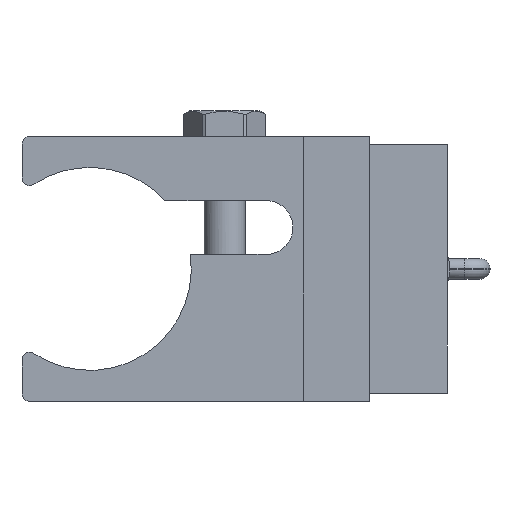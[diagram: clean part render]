
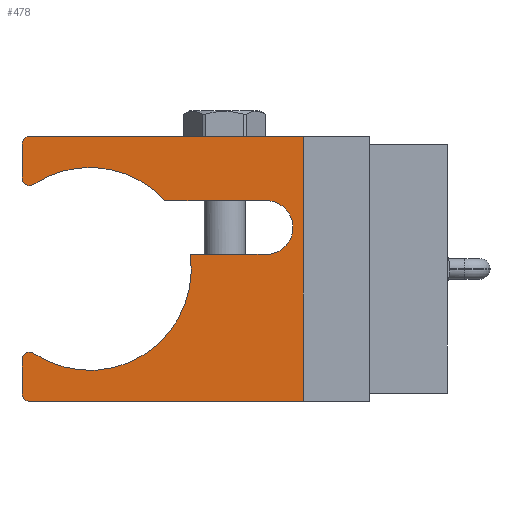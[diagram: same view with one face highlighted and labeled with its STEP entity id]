
A CAD part, left-side view. The second image highlights one B-rep face of the part: STEP entity #478.
In plain terms, the highlighted planar face has unit normal (-1, 0, 0).
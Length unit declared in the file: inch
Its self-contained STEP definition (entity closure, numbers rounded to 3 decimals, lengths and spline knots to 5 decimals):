
#180=CARTESIAN_POINT('',(-0.4,2.1,0.754));
#181=VERTEX_POINT('',#180);
#188=CARTESIAN_POINT('',(-0.4,2.054,0.8));
#189=VERTEX_POINT('',#188);
#190=CARTESIAN_POINT('',(-0.4,2.054,0.754));
#191=DIRECTION('',(1.0,0.,0.));
#192=DIRECTION('',(0.,0.707,0.707));
#193=AXIS2_PLACEMENT_3D('',#190,#191,#192);
#194=CIRCLE('',#193,0.046);
#195=EDGE_CURVE('',#181,#189,#194,.T.);
#220=CARTESIAN_POINT('',(-0.4,2.1,0.54935));
#221=VERTEX_POINT('',#220);
#228=CARTESIAN_POINT('',(-0.4,2.1,0.54935));
#229=DIRECTION('',(0.0,0.0,1.0));
#230=VECTOR('',#229,0.20465);
#231=LINE('',#228,#230);
#232=EDGE_CURVE('',#221,#181,#231,.T.);
#352=CARTESIAN_POINT('',(-0.4,2.054,-0.8));
#353=VERTEX_POINT('',#352);
#354=CARTESIAN_POINT('',(-0.4,2.1,-0.754));
#355=VERTEX_POINT('',#354);
#356=CARTESIAN_POINT('',(-0.4,2.054,-0.754));
#357=DIRECTION('',(1.0,0.0,0.0));
#358=DIRECTION('',(0.0,0.707,-0.707));
#359=AXIS2_PLACEMENT_3D('',#356,#357,#358);
#360=CIRCLE('',#359,0.046);
#361=EDGE_CURVE('',#353,#355,#360,.T.);
#379=CARTESIAN_POINT('',(-0.4,0.4,0.0));
#380=DIRECTION('',(-1.0,0.0,0.0));
#381=DIRECTION('',(0.0,0.0,1.0));
#382=AXIS2_PLACEMENT_3D('',#379,#380,#381);
#383=PLANE('',#382);
#384=ORIENTED_EDGE('',*,*,#195,.F.);
#385=ORIENTED_EDGE('',*,*,#232,.F.);
#386=CARTESIAN_POINT('',(-0.4,2.02859,0.511));
#387=VERTEX_POINT('',#386);
#388=CARTESIAN_POINT('',(-0.4,2.054,0.54935));
#389=DIRECTION('',(1.0,0.0,0.0));
#390=DIRECTION('',(0.0,0.473,-0.881));
#391=AXIS2_PLACEMENT_3D('',#388,#389,#390);
#392=CIRCLE('',#391,0.046);
#393=EDGE_CURVE('',#387,#221,#392,.T.);
#394=ORIENTED_EDGE('',*,*,#393,.F.);
#395=CARTESIAN_POINT('',(-0.4,1.23665,0.41261));
#396=VERTEX_POINT('',#395);
#397=CARTESIAN_POINT('',(-0.4,1.69,0.0));
#398=DIRECTION('',(1.0,0.0,0.0));
#399=DIRECTION('',(0.0,0.669,0.743));
#400=AXIS2_PLACEMENT_3D('',#397,#398,#399);
#401=CIRCLE('',#400,0.613);
#402=EDGE_CURVE('',#387,#396,#401,.T.);
#403=ORIENTED_EDGE('',*,*,#402,.T.);
#404=CARTESIAN_POINT('',(-0.4,0.62903,0.41261));
#405=VERTEX_POINT('',#404);
#406=CARTESIAN_POINT('',(-0.4,1.23665,0.41261));
#407=DIRECTION('',(0.0,-1.0,0.0));
#408=VECTOR('',#407,0.60762);
#409=LINE('',#406,#408);
#410=EDGE_CURVE('',#396,#405,#409,.T.);
#411=ORIENTED_EDGE('',*,*,#410,.T.);
#412=CARTESIAN_POINT('',(-0.4,0.625,0.08734));
#413=VERTEX_POINT('',#412);
#414=CARTESIAN_POINT('',(-0.4,0.625,0.25));
#415=DIRECTION('',(1.0,0.0,0.0));
#416=DIRECTION('',(0.0,0.025,1.));
#417=AXIS2_PLACEMENT_3D('',#414,#415,#416);
#418=CIRCLE('',#417,0.16266);
#419=EDGE_CURVE('',#405,#413,#418,.T.);
#420=ORIENTED_EDGE('',*,*,#419,.T.);
#421=CARTESIAN_POINT('',(-0.4,1.08325,0.08734));
#422=VERTEX_POINT('',#421);
#423=CARTESIAN_POINT('',(-0.4,0.625,0.08734));
#424=DIRECTION('',(0.0,1.0,0.0));
#425=VECTOR('',#424,0.45825);
#426=LINE('',#423,#425);
#427=EDGE_CURVE('',#413,#422,#426,.T.);
#428=ORIENTED_EDGE('',*,*,#427,.T.);
#429=CARTESIAN_POINT('',(-0.4,2.02859,-0.511));
#430=VERTEX_POINT('',#429);
#431=CARTESIAN_POINT('',(-0.4,1.69,0.0));
#432=DIRECTION('',(1.0,0.0,0.0));
#433=DIRECTION('',(0.0,-0.99,0.142));
#434=AXIS2_PLACEMENT_3D('',#431,#432,#433);
#435=CIRCLE('',#434,0.613);
#436=EDGE_CURVE('',#422,#430,#435,.T.);
#437=ORIENTED_EDGE('',*,*,#436,.T.);
#438=CARTESIAN_POINT('',(-0.4,2.1,-0.54935));
#439=VERTEX_POINT('',#438);
#440=CARTESIAN_POINT('',(-0.4,2.054,-0.54935));
#441=DIRECTION('',(1.0,0.0,0.0));
#442=DIRECTION('',(0.0,0.473,0.881));
#443=AXIS2_PLACEMENT_3D('',#440,#441,#442);
#444=CIRCLE('',#443,0.046);
#445=EDGE_CURVE('',#439,#430,#444,.T.);
#446=ORIENTED_EDGE('',*,*,#445,.F.);
#447=CARTESIAN_POINT('',(-0.4,2.1,-0.754));
#448=DIRECTION('',(0.0,0.0,1.0));
#449=VECTOR('',#448,0.20465);
#450=LINE('',#447,#449);
#451=EDGE_CURVE('',#355,#439,#450,.T.);
#452=ORIENTED_EDGE('',*,*,#451,.F.);
#453=ORIENTED_EDGE('',*,*,#361,.F.);
#454=CARTESIAN_POINT('',(-0.4,0.4,-0.8));
#455=VERTEX_POINT('',#454);
#456=CARTESIAN_POINT('',(-0.4,2.054,-0.8));
#457=DIRECTION('',(0.0,-1.0,0.0));
#458=VECTOR('',#457,1.654);
#459=LINE('',#456,#458);
#460=EDGE_CURVE('',#353,#455,#459,.T.);
#461=ORIENTED_EDGE('',*,*,#460,.T.);
#462=CARTESIAN_POINT('',(-0.4,0.4,0.8));
#463=VERTEX_POINT('',#462);
#464=CARTESIAN_POINT('',(-0.4,0.4,-0.8));
#465=DIRECTION('',(0.0,0.0,1.0));
#466=VECTOR('',#465,1.6);
#467=LINE('',#464,#466);
#468=EDGE_CURVE('',#455,#463,#467,.T.);
#469=ORIENTED_EDGE('',*,*,#468,.T.);
#470=CARTESIAN_POINT('',(-0.4,0.4,0.8));
#471=DIRECTION('',(0.0,1.0,0.0));
#472=VECTOR('',#471,1.654);
#473=LINE('',#470,#472);
#474=EDGE_CURVE('',#463,#189,#473,.T.);
#475=ORIENTED_EDGE('',*,*,#474,.T.);
#476=EDGE_LOOP('',(#384,#385,#394,#403,#411,#420,#428,#437,#446,#452,#453,#461,#469,#475));
#477=FACE_OUTER_BOUND('',#476,.T.);
#478=ADVANCED_FACE('',(#477),#383,.T.);
